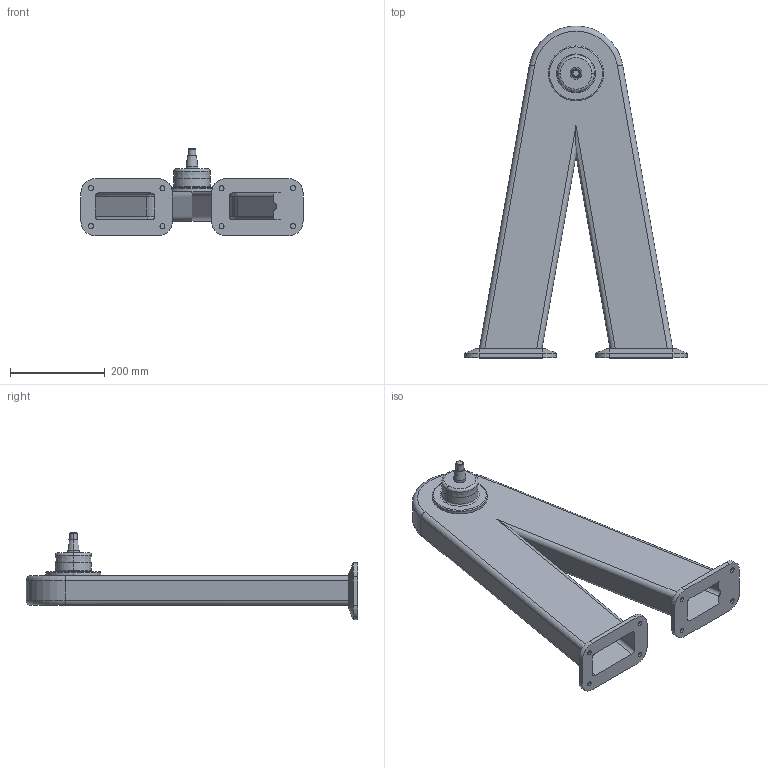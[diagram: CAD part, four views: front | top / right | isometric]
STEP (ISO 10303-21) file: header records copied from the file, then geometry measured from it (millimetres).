
FILE_DESCRIPTION (( 'STEP AP214' ), '1' );
FILE_NAME ('WP850_H600.STEP', '2014-09-08T13:01:20', ( '' ), ( '' ), 'SwSTEP 2.0', 'SolidWorks 2014', '' );
FILE_SCHEMA (( 'AUTOMOTIVE_DESIGN' ));
Length unit declared in the file: millimetre
Products named in the file (1): WP850_H600
Bounding box: 468.62 x 700 x 183.98 mm (x, y, z)
Volume: 2058541.7 mm3; surface area: 983473.7 mm2
Topology: 1 solids, 1 shells, 152 faces, 347 edges, 218 vertices
Faces by surface type: cylinder 76, plane 52, cone 14, torus 10
Entity records: 4347 total; most frequent: DIRECTION 791, CARTESIAN_POINT 778, ORIENTED_EDGE 694, EDGE_CURVE 347, AXIS2_PLACEMENT_3D 311, VERTEX_POINT 218, EDGE_LOOP 185, VECTOR 169
